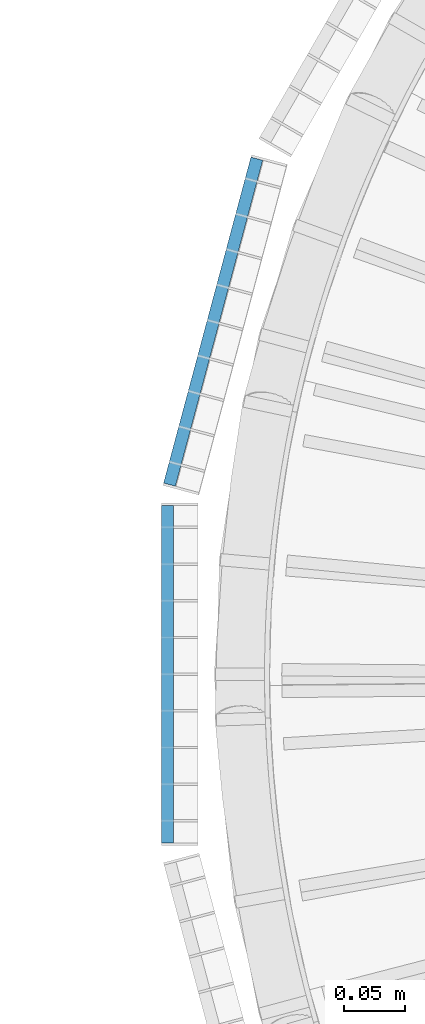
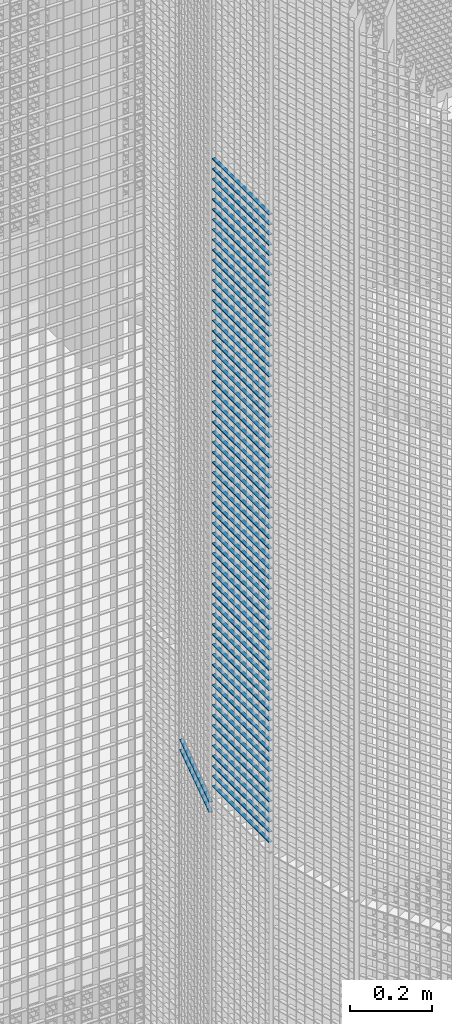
# One storey, part 200 of 1183: 65 beams, 2 elements without a shape of their own.
"""IFC2X3 building model written with IfcOpenShell, lengths in millimetres."""

from ifc_helpers import new_model, si_unit, frame, origin_with_axes, origin_2d_with_axis, place, context, subcontext, project, spatial, rectangle, extrude, material, type_object, element, aggregate, save


model = new_model("IFC2X3")

# Units and contexts
model_context = context("Model", 3, precision=1e-05, world=origin_with_axes())
body_context = subcontext(model_context, "Body", "Model", "MODEL_VIEW")
ifc_project = project(units=[si_unit("LENGTHUNIT", "METRE", prefix="MILLI"), si_unit("AREAUNIT", "SQUARE_METRE"), si_unit("VOLUMEUNIT", "CUBIC_METRE"), si_unit("MASSUNIT", "GRAM", prefix="KILO"), si_unit("TIMEUNIT", "SECOND"), si_unit("PLANEANGLEUNIT", "RADIAN"), si_unit("SOLIDANGLEUNIT", "STERADIAN"), si_unit("THERMODYNAMICTEMPERATUREUNIT", "DEGREE_CELSIUS"), si_unit("LUMINOUSINTENSITYUNIT", "LUMEN")], contexts=[model_context])

# Site, building, storey
site_placement = place(None, origin_with_axes())
site = spatial("IfcSite", under=ifc_project, at=site_placement, Name="Undefined", CompositionType="ELEMENT")
building_placement = place(site_placement, origin_with_axes())
building = spatial("IfcBuilding", under=site, at=building_placement, Name="Undefined", CompositionType="ELEMENT")
storey_placement = place(building_placement, origin_with_axes())
storey = spatial("IfcBuildingStorey", under=building, at=storey_placement, Name="Undefined", CompositionType="ELEMENT", Elevation=0.0)

# Assembly, beams
assembly_1_placement = place(storey_placement, origin_with_axes())
assembly_1 = element("IfcElementAssembly", 1, at=assembly_1_placement, inside=storey, Name="BORDURE", AssemblyPlace="NOTDEFINED", PredefinedType="NOTDEFINED")
ifc_material = material(Name="STEEL/S235JR")
beam_type = type_object("IfcBeamType", Name="PL2*10", PredefinedType="NOTDEFINED")
beam_1_placement = place(assembly_1_placement, frame((-1113.47999999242, 137.996003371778, 10890.0), z_axis=(-1.0, 0.0, 0.0), x_axis=(0.0, -1.0, 0.0)))
beam_1 = element("IfcBeam", 2, at=beam_1_placement, type_object=beam_type, material=ifc_material, Name="ENTRETOISE", context=body_context, shape_type="SweptSolid", body=[
    extrude(rectangle(XDim=2.0, YDim=10.0, at=origin_2d_with_axis()), frame((275.999999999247, 9.09494701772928e-13, 1.53210777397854e-14), z_axis=(-1.0, 0.0, 0.0), x_axis=(0.0, -1.0, 0.0)), (0.0, 0.0, 1.0), 276.0),
])
beam_2_placement = place(assembly_1_placement, frame((-1113.47999999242, 137.996003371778, 10860.0), z_axis=(-1.0, 0.0, 0.0), x_axis=(0.0, -1.0, 0.0)))
beam_2 = element("IfcBeam", 3, at=beam_2_placement, type_object=beam_type, material=ifc_material, Name="ENTRETOISE", context=body_context, shape_type="SweptSolid", body=[
    extrude(rectangle(XDim=2.0, YDim=10.0, at=origin_2d_with_axis()), frame((275.999999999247, 9.09494701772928e-13, 1.53210777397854e-14), z_axis=(-1.0, 0.0, 0.0), x_axis=(0.0, -1.0, 0.0)), (0.0, 0.0, 1.0), 276.0),
])
beam_3_placement = place(assembly_1_placement, frame((-1113.47999999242, 137.996003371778, 10830.0), z_axis=(-1.0, 0.0, 0.0), x_axis=(0.0, -1.0, 0.0)))
beam_3 = element("IfcBeam", 4, at=beam_3_placement, type_object=beam_type, material=ifc_material, Name="ENTRETOISE", context=body_context, shape_type="SweptSolid", body=[
    extrude(rectangle(XDim=2.0, YDim=10.0, at=origin_2d_with_axis()), frame((275.999999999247, 9.09494701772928e-13, 1.53210777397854e-14), z_axis=(-1.0, 0.0, 0.0), x_axis=(0.0, -1.0, 0.0)), (0.0, 0.0, 1.0), 276.0),
])
beam_4_placement = place(assembly_1_placement, frame((-1113.47999999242, 137.996003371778, 10800.0), z_axis=(-1.0, 0.0, 0.0), x_axis=(0.0, -1.0, 0.0)))
beam_4 = element("IfcBeam", 5, at=beam_4_placement, type_object=beam_type, material=ifc_material, Name="ENTRETOISE", context=body_context, shape_type="SweptSolid", body=[
    extrude(rectangle(XDim=2.0, YDim=10.0, at=origin_2d_with_axis()), frame((275.999999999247, 9.09494701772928e-13, 1.53210777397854e-14), z_axis=(-1.0, 0.0, 0.0), x_axis=(0.0, -1.0, 0.0)), (0.0, 0.0, 1.0), 276.0),
])
beam_5_placement = place(assembly_1_placement, frame((-1113.47999999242, 137.996003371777, 10770.0), z_axis=(-1.0, 0.0, 0.0), x_axis=(0.0, -1.0, 0.0)))
beam_5 = element("IfcBeam", 6, at=beam_5_placement, type_object=beam_type, material=ifc_material, Name="ENTRETOISE", context=body_context, shape_type="SweptSolid", body=[
    extrude(rectangle(XDim=2.0, YDim=10.0, at=origin_2d_with_axis()), frame((275.999999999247, 9.09494701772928e-13, 1.53210777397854e-14), z_axis=(-1.0, 0.0, 0.0), x_axis=(0.0, -1.0, 0.0)), (0.0, 0.0, 1.0), 276.0),
])
beam_6_placement = place(assembly_1_placement, frame((-1113.47999999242, 137.996003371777, 10740.0), z_axis=(-1.0, 0.0, 0.0), x_axis=(0.0, -1.0, 0.0)))
beam_6 = element("IfcBeam", 7, at=beam_6_placement, type_object=beam_type, material=ifc_material, Name="ENTRETOISE", context=body_context, shape_type="SweptSolid", body=[
    extrude(rectangle(XDim=2.0, YDim=10.0, at=origin_2d_with_axis()), frame((275.999999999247, 9.09494701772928e-13, 1.53210777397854e-14), z_axis=(-1.0, 0.0, 0.0), x_axis=(0.0, -1.0, 0.0)), (0.0, 0.0, 1.0), 276.0),
])
beam_7_placement = place(assembly_1_placement, frame((-1113.47999999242, 137.996003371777, 10710.0), z_axis=(-1.0, 0.0, 0.0), x_axis=(0.0, -1.0, 0.0)))
beam_7 = element("IfcBeam", 8, at=beam_7_placement, type_object=beam_type, material=ifc_material, Name="ENTRETOISE", context=body_context, shape_type="SweptSolid", body=[
    extrude(rectangle(XDim=2.0, YDim=10.0, at=origin_2d_with_axis()), frame((275.999999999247, 9.09494701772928e-13, 1.53210777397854e-14), z_axis=(-1.0, 0.0, 0.0), x_axis=(0.0, -1.0, 0.0)), (0.0, 0.0, 1.0), 276.0),
])
beam_8_placement = place(assembly_1_placement, frame((-1113.47999999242, 137.996003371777, 10680.0), z_axis=(-1.0, 0.0, 0.0), x_axis=(0.0, -1.0, 0.0)))
beam_8 = element("IfcBeam", 9, at=beam_8_placement, type_object=beam_type, material=ifc_material, Name="ENTRETOISE", context=body_context, shape_type="SweptSolid", body=[
    extrude(rectangle(XDim=2.0, YDim=10.0, at=origin_2d_with_axis()), frame((275.999999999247, 9.09494701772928e-13, 1.53210777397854e-14), z_axis=(-1.0, 0.0, 0.0), x_axis=(0.0, -1.0, 0.0)), (0.0, 0.0, 1.0), 276.0),
])
beam_9_placement = place(assembly_1_placement, frame((-1113.47999999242, 137.996003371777, 10650.0), z_axis=(-1.0, 0.0, 0.0), x_axis=(0.0, -1.0, 0.0)))
beam_9 = element("IfcBeam", 10, at=beam_9_placement, type_object=beam_type, material=ifc_material, Name="ENTRETOISE", context=body_context, shape_type="SweptSolid", body=[
    extrude(rectangle(XDim=2.0, YDim=10.0, at=origin_2d_with_axis()), frame((275.999999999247, 9.09494701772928e-13, 1.53210777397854e-14), z_axis=(-1.0, 0.0, 0.0), x_axis=(0.0, -1.0, 0.0)), (0.0, 0.0, 1.0), 276.0),
])
beam_10_placement = place(assembly_1_placement, frame((-1113.47999999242, 137.996003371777, 10620.0), z_axis=(-1.0, 0.0, 0.0), x_axis=(0.0, -1.0, 0.0)))
beam_10 = element("IfcBeam", 11, at=beam_10_placement, type_object=beam_type, material=ifc_material, Name="ENTRETOISE", context=body_context, shape_type="SweptSolid", body=[
    extrude(rectangle(XDim=2.0, YDim=10.0, at=origin_2d_with_axis()), frame((275.999999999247, 9.09494701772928e-13, 1.53210777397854e-14), z_axis=(-1.0, 0.0, 0.0), x_axis=(0.0, -1.0, 0.0)), (0.0, 0.0, 1.0), 276.0),
])
beam_11_placement = place(assembly_1_placement, frame((-1113.47999999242, 137.996003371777, 10590.0), z_axis=(-1.0, 0.0, 0.0), x_axis=(0.0, -1.0, 0.0)))
beam_11 = element("IfcBeam", 12, at=beam_11_placement, type_object=beam_type, material=ifc_material, Name="ENTRETOISE", context=body_context, shape_type="SweptSolid", body=[
    extrude(rectangle(XDim=2.0, YDim=10.0, at=origin_2d_with_axis()), frame((275.999999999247, 9.09494701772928e-13, 1.53210777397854e-14), z_axis=(-1.0, 0.0, 0.0), x_axis=(0.0, -1.0, 0.0)), (0.0, 0.0, 1.0), 276.0),
])
beam_12_placement = place(assembly_1_placement, frame((-1113.47999999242, 137.996003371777, 10560.0), z_axis=(-1.0, 0.0, 0.0), x_axis=(0.0, -1.0, 0.0)))
beam_12 = element("IfcBeam", 13, at=beam_12_placement, type_object=beam_type, material=ifc_material, Name="ENTRETOISE", context=body_context, shape_type="SweptSolid", body=[
    extrude(rectangle(XDim=2.0, YDim=10.0, at=origin_2d_with_axis()), frame((275.999999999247, 9.09494701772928e-13, 1.53210777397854e-14), z_axis=(-1.0, 0.0, 0.0), x_axis=(0.0, -1.0, 0.0)), (0.0, 0.0, 1.0), 276.0),
])
beam_13_placement = place(assembly_1_placement, frame((-1113.47999999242, 137.996003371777, 10530.0), z_axis=(-1.0, 0.0, 0.0), x_axis=(0.0, -1.0, 0.0)))
beam_13 = element("IfcBeam", 14, at=beam_13_placement, type_object=beam_type, material=ifc_material, Name="ENTRETOISE", context=body_context, shape_type="SweptSolid", body=[
    extrude(rectangle(XDim=2.0, YDim=10.0, at=origin_2d_with_axis()), frame((275.999999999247, 9.09494701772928e-13, 1.53210777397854e-14), z_axis=(-1.0, 0.0, 0.0), x_axis=(0.0, -1.0, 0.0)), (0.0, 0.0, 1.0), 276.0),
])
beam_14_placement = place(assembly_1_placement, frame((-1113.47999999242, 137.996003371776, 10500.0), z_axis=(-1.0, 0.0, 0.0), x_axis=(0.0, -1.0, 0.0)))
beam_14 = element("IfcBeam", 15, at=beam_14_placement, type_object=beam_type, material=ifc_material, Name="ENTRETOISE", context=body_context, shape_type="SweptSolid", body=[
    extrude(rectangle(XDim=2.0, YDim=10.0, at=origin_2d_with_axis()), frame((275.999999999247, 9.09494701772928e-13, 1.53210777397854e-14), z_axis=(-1.0, 0.0, 0.0), x_axis=(0.0, -1.0, 0.0)), (0.0, 0.0, 1.0), 276.0),
])
beam_15_placement = place(assembly_1_placement, frame((-1113.47999999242, 137.996003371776, 10470.0), z_axis=(-1.0, 0.0, 0.0), x_axis=(0.0, -1.0, 0.0)))
beam_15 = element("IfcBeam", 16, at=beam_15_placement, type_object=beam_type, material=ifc_material, Name="ENTRETOISE", context=body_context, shape_type="SweptSolid", body=[
    extrude(rectangle(XDim=2.0, YDim=10.0, at=origin_2d_with_axis()), frame((275.999999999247, 9.09494701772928e-13, 1.53210777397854e-14), z_axis=(-1.0, 0.0, 0.0), x_axis=(0.0, -1.0, 0.0)), (0.0, 0.0, 1.0), 276.0),
])
beam_16_placement = place(assembly_1_placement, frame((-1113.47999999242, 137.996003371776, 10440.0), z_axis=(-1.0, 0.0, 0.0), x_axis=(0.0, -1.0, 0.0)))
beam_16 = element("IfcBeam", 17, at=beam_16_placement, type_object=beam_type, material=ifc_material, Name="ENTRETOISE", context=body_context, shape_type="SweptSolid", body=[
    extrude(rectangle(XDim=2.0, YDim=10.0, at=origin_2d_with_axis()), frame((275.999999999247, 9.09494701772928e-13, 1.53210777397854e-14), z_axis=(-1.0, 0.0, 0.0), x_axis=(0.0, -1.0, 0.0)), (0.0, 0.0, 1.0), 276.0),
])
beam_17_placement = place(assembly_1_placement, frame((-1113.47999999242, 137.996003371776, 10410.0), z_axis=(-1.0, 0.0, 0.0), x_axis=(0.0, -1.0, 0.0)))
beam_17 = element("IfcBeam", 18, at=beam_17_placement, type_object=beam_type, material=ifc_material, Name="ENTRETOISE", context=body_context, shape_type="SweptSolid", body=[
    extrude(rectangle(XDim=2.0, YDim=10.0, at=origin_2d_with_axis()), frame((275.999999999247, 9.09494701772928e-13, 1.53210777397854e-14), z_axis=(-1.0, 0.0, 0.0), x_axis=(0.0, -1.0, 0.0)), (0.0, 0.0, 1.0), 276.0),
])
beam_18_placement = place(assembly_1_placement, frame((-1113.47999999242, 137.996003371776, 10380.0), z_axis=(-1.0, 0.0, 0.0), x_axis=(0.0, -1.0, 0.0)))
beam_18 = element("IfcBeam", 19, at=beam_18_placement, type_object=beam_type, material=ifc_material, Name="ENTRETOISE", context=body_context, shape_type="SweptSolid", body=[
    extrude(rectangle(XDim=2.0, YDim=10.0, at=origin_2d_with_axis()), frame((275.999999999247, 9.09494701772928e-13, 1.53210777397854e-14), z_axis=(-1.0, 0.0, 0.0), x_axis=(0.0, -1.0, 0.0)), (0.0, 0.0, 1.0), 276.0),
])
beam_19_placement = place(assembly_1_placement, frame((-1113.47999999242, 137.996003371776, 10350.0), z_axis=(-1.0, 0.0, 0.0), x_axis=(0.0, -1.0, 0.0)))
beam_19 = element("IfcBeam", 20, at=beam_19_placement, type_object=beam_type, material=ifc_material, Name="ENTRETOISE", context=body_context, shape_type="SweptSolid", body=[
    extrude(rectangle(XDim=2.0, YDim=10.0, at=origin_2d_with_axis()), frame((275.999999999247, 9.09494701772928e-13, 1.53210777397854e-14), z_axis=(-1.0, 0.0, 0.0), x_axis=(0.0, -1.0, 0.0)), (0.0, 0.0, 1.0), 276.0),
])
beam_20_placement = place(assembly_1_placement, frame((-1113.47999999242, 137.996003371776, 10320.0), z_axis=(-1.0, 0.0, 0.0), x_axis=(0.0, -1.0, 0.0)))
beam_20 = element("IfcBeam", 21, at=beam_20_placement, type_object=beam_type, material=ifc_material, Name="ENTRETOISE", context=body_context, shape_type="SweptSolid", body=[
    extrude(rectangle(XDim=2.0, YDim=10.0, at=origin_2d_with_axis()), frame((275.999999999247, 9.09494701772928e-13, 1.53210777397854e-14), z_axis=(-1.0, 0.0, 0.0), x_axis=(0.0, -1.0, 0.0)), (0.0, 0.0, 1.0), 276.0),
])
beam_21_placement = place(assembly_1_placement, frame((-1113.47999999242, 137.996003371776, 10290.0), z_axis=(-1.0, 0.0, 0.0), x_axis=(0.0, -1.0, 0.0)))
beam_21 = element("IfcBeam", 22, at=beam_21_placement, type_object=beam_type, material=ifc_material, Name="ENTRETOISE", context=body_context, shape_type="SweptSolid", body=[
    extrude(rectangle(XDim=2.0, YDim=10.0, at=origin_2d_with_axis()), frame((275.999999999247, 9.09494701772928e-13, 1.53210777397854e-14), z_axis=(-1.0, 0.0, 0.0), x_axis=(0.0, -1.0, 0.0)), (0.0, 0.0, 1.0), 276.0),
])
beam_22_placement = place(assembly_1_placement, frame((-1113.47999999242, 137.996003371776, 10260.0), z_axis=(-1.0, 0.0, 0.0), x_axis=(0.0, -1.0, 0.0)))
beam_22 = element("IfcBeam", 23, at=beam_22_placement, type_object=beam_type, material=ifc_material, Name="ENTRETOISE", context=body_context, shape_type="SweptSolid", body=[
    extrude(rectangle(XDim=2.0, YDim=10.0, at=origin_2d_with_axis()), frame((275.999999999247, 9.09494701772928e-13, 1.53210777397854e-14), z_axis=(-1.0, 0.0, 0.0), x_axis=(0.0, -1.0, 0.0)), (0.0, 0.0, 1.0), 276.0),
])
beam_23_placement = place(assembly_1_placement, frame((-1113.47999999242, 137.996003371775, 10230.0), z_axis=(-1.0, 0.0, 0.0), x_axis=(0.0, -1.0, 0.0)))
beam_23 = element("IfcBeam", 24, at=beam_23_placement, type_object=beam_type, material=ifc_material, Name="ENTRETOISE", context=body_context, shape_type="SweptSolid", body=[
    extrude(rectangle(XDim=2.0, YDim=10.0, at=origin_2d_with_axis()), frame((275.999999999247, 9.09494701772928e-13, 1.53210777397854e-14), z_axis=(-1.0, 0.0, 0.0), x_axis=(0.0, -1.0, 0.0)), (0.0, 0.0, 1.0), 276.0),
])
beam_24_placement = place(assembly_1_placement, frame((-1113.47999999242, 137.996003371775, 10200.0), z_axis=(-1.0, 0.0, 0.0), x_axis=(0.0, -1.0, 0.0)))
beam_24 = element("IfcBeam", 25, at=beam_24_placement, type_object=beam_type, material=ifc_material, Name="ENTRETOISE", context=body_context, shape_type="SweptSolid", body=[
    extrude(rectangle(XDim=2.0, YDim=10.0, at=origin_2d_with_axis()), frame((275.999999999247, 9.09494701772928e-13, 1.53210777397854e-14), z_axis=(-1.0, 0.0, 0.0), x_axis=(0.0, -1.0, 0.0)), (0.0, 0.0, 1.0), 276.0),
])
beam_25_placement = place(assembly_1_placement, frame((-1113.47999999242, 137.996003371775, 10170.0), z_axis=(-1.0, 0.0, 0.0), x_axis=(0.0, -1.0, 0.0)))
beam_25 = element("IfcBeam", 26, at=beam_25_placement, type_object=beam_type, material=ifc_material, Name="ENTRETOISE", context=body_context, shape_type="SweptSolid", body=[
    extrude(rectangle(XDim=2.0, YDim=10.0, at=origin_2d_with_axis()), frame((275.999999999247, 9.09494701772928e-13, 1.53210777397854e-14), z_axis=(-1.0, 0.0, 0.0), x_axis=(0.0, -1.0, 0.0)), (0.0, 0.0, 1.0), 276.0),
])
beam_26_placement = place(assembly_1_placement, frame((-1113.47999999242, 137.996003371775, 10140.0), z_axis=(-1.0, 0.0, 0.0), x_axis=(0.0, -1.0, 0.0)))
beam_26 = element("IfcBeam", 27, at=beam_26_placement, type_object=beam_type, material=ifc_material, Name="ENTRETOISE", context=body_context, shape_type="SweptSolid", body=[
    extrude(rectangle(XDim=2.0, YDim=10.0, at=origin_2d_with_axis()), frame((275.999999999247, 9.09494701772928e-13, 1.53210777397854e-14), z_axis=(-1.0, 0.0, 0.0), x_axis=(0.0, -1.0, 0.0)), (0.0, 0.0, 1.0), 276.0),
])
beam_27_placement = place(assembly_1_placement, frame((-1113.47999999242, 137.996003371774, 9720.0), z_axis=(-1.0, 0.0, 0.0), x_axis=(0.0, -1.0, 0.0)))
beam_27 = element("IfcBeam", 28, at=beam_27_placement, type_object=beam_type, material=ifc_material, Name="ENTRETOISE", context=body_context, shape_type="SweptSolid", body=[
    extrude(rectangle(XDim=2.0, YDim=10.0, at=origin_2d_with_axis()), frame((275.999999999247, 9.09494701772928e-13, 1.53210777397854e-14), z_axis=(-1.0, 0.0, 0.0), x_axis=(0.0, -1.0, 0.0)), (0.0, 0.0, 1.0), 276.0),
])
beam_28_placement = place(assembly_1_placement, frame((-1113.47999999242, 137.996003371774, 9690.0), z_axis=(-1.0, 0.0, 0.0), x_axis=(0.0, -1.0, 0.0)))
beam_28 = element("IfcBeam", 29, at=beam_28_placement, type_object=beam_type, material=ifc_material, Name="ENTRETOISE", context=body_context, shape_type="SweptSolid", body=[
    extrude(rectangle(XDim=2.0, YDim=10.0, at=origin_2d_with_axis()), frame((275.999999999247, 9.09494701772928e-13, 1.53210777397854e-14), z_axis=(-1.0, 0.0, 0.0), x_axis=(0.0, -1.0, 0.0)), (0.0, 0.0, 1.0), 276.0),
])
beam_29_placement = place(assembly_1_placement, frame((-1113.47999999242, 137.996003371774, 9750.0), z_axis=(-1.0, 0.0, 0.0), x_axis=(0.0, -1.0, 0.0)))
beam_29 = element("IfcBeam", 30, at=beam_29_placement, type_object=beam_type, material=ifc_material, Name="ENTRETOISE", context=body_context, shape_type="SweptSolid", body=[
    extrude(rectangle(XDim=2.0, YDim=10.0, at=origin_2d_with_axis()), frame((275.999999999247, 9.09494701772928e-13, 1.53210777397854e-14), z_axis=(-1.0, 0.0, 0.0), x_axis=(0.0, -1.0, 0.0)), (0.0, 0.0, 1.0), 276.0),
])
beam_30_placement = place(assembly_1_placement, frame((-1113.47999999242, 137.996003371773, 9660.0), z_axis=(-1.0, 0.0, 0.0), x_axis=(0.0, -1.0, 0.0)))
beam_30 = element("IfcBeam", 31, at=beam_30_placement, type_object=beam_type, material=ifc_material, Name="ENTRETOISE", context=body_context, shape_type="SweptSolid", body=[
    extrude(rectangle(XDim=2.0, YDim=10.0, at=origin_2d_with_axis()), frame((275.999999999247, 9.09494701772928e-13, 1.53210777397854e-14), z_axis=(-1.0, 0.0, 0.0), x_axis=(0.0, -1.0, 0.0)), (0.0, 0.0, 1.0), 276.0),
])
beam_31_placement = place(assembly_1_placement, frame((-1113.47999999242, 137.996003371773, 9630.0), z_axis=(-1.0, 0.0, 0.0), x_axis=(0.0, -1.0, 0.0)))
beam_31 = element("IfcBeam", 32, at=beam_31_placement, type_object=beam_type, material=ifc_material, Name="ENTRETOISE", context=body_context, shape_type="SweptSolid", body=[
    extrude(rectangle(XDim=2.0, YDim=10.0, at=origin_2d_with_axis()), frame((275.999999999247, 9.09494701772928e-13, 1.53210777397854e-14), z_axis=(-1.0, 0.0, 0.0), x_axis=(0.0, -1.0, 0.0)), (0.0, 0.0, 1.0), 276.0),
])
beam_32_placement = place(assembly_1_placement, frame((-1113.47999999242, 137.996003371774, 9780.0), z_axis=(-1.0, 0.0, 0.0), x_axis=(0.0, -1.0, 0.0)))
beam_32 = element("IfcBeam", 33, at=beam_32_placement, type_object=beam_type, material=ifc_material, Name="ENTRETOISE", context=body_context, shape_type="SweptSolid", body=[
    extrude(rectangle(XDim=2.0, YDim=10.0, at=origin_2d_with_axis()), frame((275.999999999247, 9.09494701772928e-13, 1.53210777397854e-14), z_axis=(-1.0, 0.0, 0.0), x_axis=(0.0, -1.0, 0.0)), (0.0, 0.0, 1.0), 276.0),
])
beam_33_placement = place(assembly_1_placement, frame((-1113.47999999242, 137.996003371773, 9600.0), z_axis=(-1.0, 0.0, 0.0), x_axis=(0.0, -1.0, 0.0)))
beam_33 = element("IfcBeam", 34, at=beam_33_placement, type_object=beam_type, material=ifc_material, Name="ENTRETOISE", context=body_context, shape_type="SweptSolid", body=[
    extrude(rectangle(XDim=2.0, YDim=10.0, at=origin_2d_with_axis()), frame((275.999999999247, 9.09494701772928e-13, 1.53210777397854e-14), z_axis=(-1.0, 0.0, 0.0), x_axis=(0.0, -1.0, 0.0)), (0.0, 0.0, 1.0), 276.0),
])
beam_34_placement = place(assembly_1_placement, frame((-1113.47999999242, 137.996003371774, 9810.0), z_axis=(-1.0, 0.0, 0.0), x_axis=(0.0, -1.0, 0.0)))
beam_34 = element("IfcBeam", 35, at=beam_34_placement, type_object=beam_type, material=ifc_material, Name="ENTRETOISE", context=body_context, shape_type="SweptSolid", body=[
    extrude(rectangle(XDim=2.0, YDim=10.0, at=origin_2d_with_axis()), frame((275.999999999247, 9.09494701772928e-13, 1.53210777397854e-14), z_axis=(-1.0, 0.0, 0.0), x_axis=(0.0, -1.0, 0.0)), (0.0, 0.0, 1.0), 276.0),
])
beam_35_placement = place(assembly_1_placement, frame((-1113.47999999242, 137.996003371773, 9570.0), z_axis=(-1.0, 0.0, 0.0), x_axis=(0.0, -1.0, 0.0)))
beam_35 = element("IfcBeam", 36, at=beam_35_placement, type_object=beam_type, material=ifc_material, Name="ENTRETOISE", context=body_context, shape_type="SweptSolid", body=[
    extrude(rectangle(XDim=2.0, YDim=10.0, at=origin_2d_with_axis()), frame((275.999999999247, 9.09494701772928e-13, 1.53210777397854e-14), z_axis=(-1.0, 0.0, 0.0), x_axis=(0.0, -1.0, 0.0)), (0.0, 0.0, 1.0), 276.0),
])
beam_36_placement = place(assembly_1_placement, frame((-1113.47999999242, 137.996003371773, 9540.0), z_axis=(-1.0, 0.0, 0.0), x_axis=(0.0, -1.0, 0.0)))
beam_36 = element("IfcBeam", 37, at=beam_36_placement, type_object=beam_type, material=ifc_material, Name="ENTRETOISE", context=body_context, shape_type="SweptSolid", body=[
    extrude(rectangle(XDim=2.0, YDim=10.0, at=origin_2d_with_axis()), frame((275.999999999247, 9.09494701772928e-13, 1.53210777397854e-14), z_axis=(-1.0, 0.0, 0.0), x_axis=(0.0, -1.0, 0.0)), (0.0, 0.0, 1.0), 276.0),
])
beam_37_placement = place(assembly_1_placement, frame((-1113.47999999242, 137.996003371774, 9840.0), z_axis=(-1.0, 0.0, 0.0), x_axis=(0.0, -1.0, 0.0)))
beam_37 = element("IfcBeam", 38, at=beam_37_placement, type_object=beam_type, material=ifc_material, Name="ENTRETOISE", context=body_context, shape_type="SweptSolid", body=[
    extrude(rectangle(XDim=2.0, YDim=10.0, at=origin_2d_with_axis()), frame((275.999999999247, 9.09494701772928e-13, 1.53210777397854e-14), z_axis=(-1.0, 0.0, 0.0), x_axis=(0.0, -1.0, 0.0)), (0.0, 0.0, 1.0), 276.0),
])
beam_38_placement = place(assembly_1_placement, frame((-1113.47999999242, 137.996003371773, 9510.0), z_axis=(-1.0, 0.0, 0.0), x_axis=(0.0, -1.0, 0.0)))
beam_38 = element("IfcBeam", 39, at=beam_38_placement, type_object=beam_type, material=ifc_material, Name="ENTRETOISE", context=body_context, shape_type="SweptSolid", body=[
    extrude(rectangle(XDim=2.0, YDim=10.0, at=origin_2d_with_axis()), frame((275.999999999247, 9.09494701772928e-13, 1.53210777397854e-14), z_axis=(-1.0, 0.0, 0.0), x_axis=(0.0, -1.0, 0.0)), (0.0, 0.0, 1.0), 276.0),
])
beam_39_placement = place(assembly_1_placement, frame((-1113.47999999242, 137.996003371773, 9480.0), z_axis=(-1.0, 0.0, 0.0), x_axis=(0.0, -1.0, 0.0)))
beam_39 = element("IfcBeam", 40, at=beam_39_placement, type_object=beam_type, material=ifc_material, Name="ENTRETOISE", context=body_context, shape_type="SweptSolid", body=[
    extrude(rectangle(XDim=2.0, YDim=10.0, at=origin_2d_with_axis()), frame((275.999999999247, 9.09494701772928e-13, 1.53210777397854e-14), z_axis=(-1.0, 0.0, 0.0), x_axis=(0.0, -1.0, 0.0)), (0.0, 0.0, 1.0), 276.0),
])
beam_40_placement = place(assembly_1_placement, frame((-1113.47999999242, 137.996003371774, 9870.0), z_axis=(-1.0, 0.0, 0.0), x_axis=(0.0, -1.0, 0.0)))
beam_40 = element("IfcBeam", 41, at=beam_40_placement, type_object=beam_type, material=ifc_material, Name="ENTRETOISE", context=body_context, shape_type="SweptSolid", body=[
    extrude(rectangle(XDim=2.0, YDim=10.0, at=origin_2d_with_axis()), frame((275.999999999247, 9.09494701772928e-13, 1.53210777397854e-14), z_axis=(-1.0, 0.0, 0.0), x_axis=(0.0, -1.0, 0.0)), (0.0, 0.0, 1.0), 276.0),
])
beam_41_placement = place(assembly_1_placement, frame((-1113.47999999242, 137.996003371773, 9450.0), z_axis=(-1.0, 0.0, 0.0), x_axis=(0.0, -1.0, 0.0)))
beam_41 = element("IfcBeam", 42, at=beam_41_placement, type_object=beam_type, material=ifc_material, Name="ENTRETOISE", context=body_context, shape_type="SweptSolid", body=[
    extrude(rectangle(XDim=2.0, YDim=10.0, at=origin_2d_with_axis()), frame((275.999999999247, 9.09494701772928e-13, 1.53210777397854e-14), z_axis=(-1.0, 0.0, 0.0), x_axis=(0.0, -1.0, 0.0)), (0.0, 0.0, 1.0), 276.0),
])
beam_42_placement = place(assembly_1_placement, frame((-1113.47999999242, 137.996003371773, 9420.0), z_axis=(-1.0, 0.0, 0.0), x_axis=(0.0, -1.0, 0.0)))
beam_42 = element("IfcBeam", 43, at=beam_42_placement, type_object=beam_type, material=ifc_material, Name="ENTRETOISE", context=body_context, shape_type="SweptSolid", body=[
    extrude(rectangle(XDim=2.0, YDim=10.0, at=origin_2d_with_axis()), frame((275.999999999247, 9.09494701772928e-13, 1.53210777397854e-14), z_axis=(-1.0, 0.0, 0.0), x_axis=(0.0, -1.0, 0.0)), (0.0, 0.0, 1.0), 276.0),
])
beam_43_placement = place(assembly_1_placement, frame((-1113.47999999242, 137.996003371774, 9900.0), z_axis=(-1.0, 0.0, 0.0), x_axis=(0.0, -1.0, 0.0)))
beam_43 = element("IfcBeam", 44, at=beam_43_placement, type_object=beam_type, material=ifc_material, Name="ENTRETOISE", context=body_context, shape_type="SweptSolid", body=[
    extrude(rectangle(XDim=2.0, YDim=10.0, at=origin_2d_with_axis()), frame((275.999999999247, 9.09494701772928e-13, 1.53210777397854e-14), z_axis=(-1.0, 0.0, 0.0), x_axis=(0.0, -1.0, 0.0)), (0.0, 0.0, 1.0), 276.0),
])
beam_44_placement = place(assembly_1_placement, frame((-1113.47999999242, 137.996003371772, 9390.0), z_axis=(-1.0, 0.0, 0.0), x_axis=(0.0, -1.0, 0.0)))
beam_44 = element("IfcBeam", 45, at=beam_44_placement, type_object=beam_type, material=ifc_material, Name="ENTRETOISE", context=body_context, shape_type="SweptSolid", body=[
    extrude(rectangle(XDim=2.0, YDim=10.0, at=origin_2d_with_axis()), frame((275.999999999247, 9.09494701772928e-13, 1.53210777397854e-14), z_axis=(-1.0, 0.0, 0.0), x_axis=(0.0, -1.0, 0.0)), (0.0, 0.0, 1.0), 276.0),
])
beam_45_placement = place(assembly_1_placement, frame((-1113.47999999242, 137.996003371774, 9930.0), z_axis=(-1.0, 0.0, 0.0), x_axis=(0.0, -1.0, 0.0)))
beam_45 = element("IfcBeam", 46, at=beam_45_placement, type_object=beam_type, material=ifc_material, Name="ENTRETOISE", context=body_context, shape_type="SweptSolid", body=[
    extrude(rectangle(XDim=2.0, YDim=10.0, at=origin_2d_with_axis()), frame((275.999999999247, 9.09494701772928e-13, 1.53210777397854e-14), z_axis=(-1.0, 0.0, 0.0), x_axis=(0.0, -1.0, 0.0)), (0.0, 0.0, 1.0), 276.0),
])
beam_46_placement = place(assembly_1_placement, frame((-1113.47999999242, 137.996003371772, 9360.0), z_axis=(-1.0, 0.0, 0.0), x_axis=(0.0, -1.0, 0.0)))
beam_46 = element("IfcBeam", 47, at=beam_46_placement, type_object=beam_type, material=ifc_material, Name="ENTRETOISE", context=body_context, shape_type="SweptSolid", body=[
    extrude(rectangle(XDim=2.0, YDim=10.0, at=origin_2d_with_axis()), frame((275.999999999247, 9.09494701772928e-13, 1.53210777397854e-14), z_axis=(-1.0, 0.0, 0.0), x_axis=(0.0, -1.0, 0.0)), (0.0, 0.0, 1.0), 276.0),
])
beam_47_placement = place(assembly_1_placement, frame((-1113.47999999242, 137.996003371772, 9330.0), z_axis=(-1.0, 0.0, 0.0), x_axis=(0.0, -1.0, 0.0)))
beam_47 = element("IfcBeam", 48, at=beam_47_placement, type_object=beam_type, material=ifc_material, Name="ENTRETOISE", context=body_context, shape_type="SweptSolid", body=[
    extrude(rectangle(XDim=2.0, YDim=10.0, at=origin_2d_with_axis()), frame((275.999999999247, 9.09494701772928e-13, 1.53210777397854e-14), z_axis=(-1.0, 0.0, 0.0), x_axis=(0.0, -1.0, 0.0)), (0.0, 0.0, 1.0), 276.0),
])
beam_48_placement = place(assembly_1_placement, frame((-1113.47999999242, 137.996003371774, 9960.0), z_axis=(-1.0, 0.0, 0.0), x_axis=(0.0, -1.0, 0.0)))
beam_48 = element("IfcBeam", 49, at=beam_48_placement, type_object=beam_type, material=ifc_material, Name="ENTRETOISE", context=body_context, shape_type="SweptSolid", body=[
    extrude(rectangle(XDim=2.0, YDim=10.0, at=origin_2d_with_axis()), frame((275.999999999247, 9.09494701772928e-13, 1.53210777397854e-14), z_axis=(-1.0, 0.0, 0.0), x_axis=(0.0, -1.0, 0.0)), (0.0, 0.0, 1.0), 276.0),
])
beam_49_placement = place(assembly_1_placement, frame((-1113.47999999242, 137.996003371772, 9300.0), z_axis=(-1.0, 0.0, 0.0), x_axis=(0.0, -1.0, 0.0)))
beam_49 = element("IfcBeam", 50, at=beam_49_placement, type_object=beam_type, material=ifc_material, Name="ENTRETOISE", context=body_context, shape_type="SweptSolid", body=[
    extrude(rectangle(XDim=2.0, YDim=10.0, at=origin_2d_with_axis()), frame((275.999999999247, 9.09494701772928e-13, 1.53210777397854e-14), z_axis=(-1.0, 0.0, 0.0), x_axis=(0.0, -1.0, 0.0)), (0.0, 0.0, 1.0), 276.0),
])
beam_50_placement = place(assembly_1_placement, frame((-1113.47999999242, 137.996003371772, 9270.0), z_axis=(-1.0, 0.0, 0.0), x_axis=(0.0, -1.0, 0.0)))
beam_50 = element("IfcBeam", 51, at=beam_50_placement, type_object=beam_type, material=ifc_material, Name="ENTRETOISE", context=body_context, shape_type="SweptSolid", body=[
    extrude(rectangle(XDim=2.0, YDim=10.0, at=origin_2d_with_axis()), frame((275.999999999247, 9.09494701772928e-13, 1.53210777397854e-14), z_axis=(-1.0, 0.0, 0.0), x_axis=(0.0, -1.0, 0.0)), (0.0, 0.0, 1.0), 276.0),
])
beam_51_placement = place(assembly_1_placement, frame((-1113.47999999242, 137.996003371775, 9990.0), z_axis=(-1.0, 0.0, 0.0), x_axis=(0.0, -1.0, 0.0)))
beam_51 = element("IfcBeam", 52, at=beam_51_placement, type_object=beam_type, material=ifc_material, Name="ENTRETOISE", context=body_context, shape_type="SweptSolid", body=[
    extrude(rectangle(XDim=2.0, YDim=10.0, at=origin_2d_with_axis()), frame((275.999999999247, 9.09494701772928e-13, 1.53210777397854e-14), z_axis=(-1.0, 0.0, 0.0), x_axis=(0.0, -1.0, 0.0)), (0.0, 0.0, 1.0), 276.0),
])
beam_52_placement = place(assembly_1_placement, frame((-1113.47999999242, 137.996003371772, 9240.0), z_axis=(-1.0, 0.0, 0.0), x_axis=(0.0, -1.0, 0.0)))
beam_52 = element("IfcBeam", 53, at=beam_52_placement, type_object=beam_type, material=ifc_material, Name="ENTRETOISE", context=body_context, shape_type="SweptSolid", body=[
    extrude(rectangle(XDim=2.0, YDim=10.0, at=origin_2d_with_axis()), frame((275.999999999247, 9.09494701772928e-13, 1.53210777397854e-14), z_axis=(-1.0, 0.0, 0.0), x_axis=(0.0, -1.0, 0.0)), (0.0, 0.0, 1.0), 276.0),
])
beam_53_placement = place(assembly_1_placement, frame((-1113.47999999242, 137.996003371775, 10020.0), z_axis=(-1.0, 0.0, 0.0), x_axis=(0.0, -1.0, 0.0)))
beam_53 = element("IfcBeam", 54, at=beam_53_placement, type_object=beam_type, material=ifc_material, Name="ENTRETOISE", context=body_context, shape_type="SweptSolid", body=[
    extrude(rectangle(XDim=2.0, YDim=10.0, at=origin_2d_with_axis()), frame((275.999999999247, 9.09494701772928e-13, 1.53210777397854e-14), z_axis=(-1.0, 0.0, 0.0), x_axis=(0.0, -1.0, 0.0)), (0.0, 0.0, 1.0), 276.0),
])
beam_54_placement = place(assembly_1_placement, frame((-1113.47999999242, 137.996003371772, 9210.0), z_axis=(-1.0, 0.0, 0.0), x_axis=(0.0, -1.0, 0.0)))
beam_54 = element("IfcBeam", 55, at=beam_54_placement, type_object=beam_type, material=ifc_material, Name="ENTRETOISE", context=body_context, shape_type="SweptSolid", body=[
    extrude(rectangle(XDim=2.0, YDim=10.0, at=origin_2d_with_axis()), frame((275.999999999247, 9.09494701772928e-13, 1.53210777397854e-14), z_axis=(-1.0, 0.0, 0.0), x_axis=(0.0, -1.0, 0.0)), (0.0, 0.0, 1.0), 276.0),
])
beam_55_placement = place(assembly_1_placement, frame((-1113.47999999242, 137.996003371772, 9180.0), z_axis=(-1.0, 0.0, 0.0), x_axis=(0.0, -1.0, 0.0)))
beam_55 = element("IfcBeam", 56, at=beam_55_placement, type_object=beam_type, material=ifc_material, Name="ENTRETOISE", context=body_context, shape_type="SweptSolid", body=[
    extrude(rectangle(XDim=2.0, YDim=10.0, at=origin_2d_with_axis()), frame((275.999999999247, 9.09494701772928e-13, 1.53210777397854e-14), z_axis=(-1.0, 0.0, 0.0), x_axis=(0.0, -1.0, 0.0)), (0.0, 0.0, 1.0), 276.0),
])
beam_56_placement = place(assembly_1_placement, frame((-1113.47999999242, 137.996003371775, 10050.0), z_axis=(-1.0, 0.0, 0.0), x_axis=(0.0, -1.0, 0.0)))
beam_56 = element("IfcBeam", 57, at=beam_56_placement, type_object=beam_type, material=ifc_material, Name="ENTRETOISE", context=body_context, shape_type="SweptSolid", body=[
    extrude(rectangle(XDim=2.0, YDim=10.0, at=origin_2d_with_axis()), frame((275.999999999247, 9.09494701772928e-13, 1.53210777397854e-14), z_axis=(-1.0, 0.0, 0.0), x_axis=(0.0, -1.0, 0.0)), (0.0, 0.0, 1.0), 276.0),
])
beam_57_placement = place(assembly_1_placement, frame((-1113.47999999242, 137.996003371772, 9150.0), z_axis=(-1.0, 0.0, 0.0), x_axis=(0.0, -1.0, 0.0)))
beam_57 = element("IfcBeam", 58, at=beam_57_placement, type_object=beam_type, material=ifc_material, Name="ENTRETOISE", context=body_context, shape_type="SweptSolid", body=[
    extrude(rectangle(XDim=2.0, YDim=10.0, at=origin_2d_with_axis()), frame((275.999999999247, 9.09494701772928e-13, 1.53210777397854e-14), z_axis=(-1.0, 0.0, 0.0), x_axis=(0.0, -1.0, 0.0)), (0.0, 0.0, 1.0), 276.0),
])
beam_58_placement = place(assembly_1_placement, frame((-1113.47999999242, 137.996003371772, 9120.0), z_axis=(-1.0, 0.0, 0.0), x_axis=(0.0, -1.0, 0.0)))
beam_58 = element("IfcBeam", 59, at=beam_58_placement, type_object=beam_type, material=ifc_material, Name="ENTRETOISE", context=body_context, shape_type="SweptSolid", body=[
    extrude(rectangle(XDim=2.0, YDim=10.0, at=origin_2d_with_axis()), frame((275.999999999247, 9.09494701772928e-13, 1.53210777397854e-14), z_axis=(-1.0, 0.0, 0.0), x_axis=(0.0, -1.0, 0.0)), (0.0, 0.0, 1.0), 276.0),
])
beam_59_placement = place(assembly_1_placement, frame((-1113.47999999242, 137.996003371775, 10080.0), z_axis=(-1.0, 0.0, 0.0), x_axis=(0.0, -1.0, 0.0)))
beam_59 = element("IfcBeam", 60, at=beam_59_placement, type_object=beam_type, material=ifc_material, Name="ENTRETOISE", context=body_context, shape_type="SweptSolid", body=[
    extrude(rectangle(XDim=2.0, YDim=10.0, at=origin_2d_with_axis()), frame((275.999999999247, 9.09494701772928e-13, 1.53210777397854e-14), z_axis=(-1.0, 0.0, 0.0), x_axis=(0.0, -1.0, 0.0)), (0.0, 0.0, 1.0), 276.0),
])
beam_60_placement = place(assembly_1_placement, frame((-1113.47999999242, 137.996003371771, 9090.0), z_axis=(-1.0, 0.0, 0.0), x_axis=(0.0, -1.0, 0.0)))
beam_60 = element("IfcBeam", 61, at=beam_60_placement, type_object=beam_type, material=ifc_material, Name="ENTRETOISE", context=body_context, shape_type="SweptSolid", body=[
    extrude(rectangle(XDim=2.0, YDim=10.0, at=origin_2d_with_axis()), frame((275.999999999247, 9.09494701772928e-13, 1.53210777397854e-14), z_axis=(-1.0, 0.0, 0.0), x_axis=(0.0, -1.0, 0.0)), (0.0, 0.0, 1.0), 276.0),
])
beam_61_placement = place(assembly_1_placement, frame((-1113.47999999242, 137.996003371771, 9060.0), z_axis=(-1.0, 0.0, 0.0), x_axis=(0.0, -1.0, 0.0)))
beam_61 = element("IfcBeam", 62, at=beam_61_placement, type_object=beam_type, material=ifc_material, Name="ENTRETOISE", context=body_context, shape_type="SweptSolid", body=[
    extrude(rectangle(XDim=2.0, YDim=10.0, at=origin_2d_with_axis()), frame((275.999999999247, 9.09494701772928e-13, 1.53210777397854e-14), z_axis=(-1.0, 0.0, 0.0), x_axis=(0.0, -1.0, 0.0)), (0.0, 0.0, 1.0), 276.0),
])
beam_62_placement = place(assembly_1_placement, frame((-1113.47999999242, 137.996003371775, 10110.0), z_axis=(-1.0, 0.0, 0.0), x_axis=(0.0, -1.0, 0.0)))
beam_62 = element("IfcBeam", 63, at=beam_62_placement, type_object=beam_type, material=ifc_material, Name="ENTRETOISE", context=body_context, shape_type="SweptSolid", body=[
    extrude(rectangle(XDim=2.0, YDim=10.0, at=origin_2d_with_axis()), frame((275.999999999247, 9.09494701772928e-13, 1.53210777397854e-14), z_axis=(-1.0, 0.0, 0.0), x_axis=(0.0, -1.0, 0.0)), (0.0, 0.0, 1.0), 276.0),
])
beam_63_placement = place(assembly_1_placement, frame((-1113.47999999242, 137.99600337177, 9030.0), z_axis=(-1.0, 0.0, 0.0), x_axis=(0.0, -1.0, 0.0)))
beam_63 = element("IfcBeam", 64, at=beam_63_placement, type_object=beam_type, material=ifc_material, Name="ENTRETOISE", context=body_context, shape_type="SweptSolid", body=[
    extrude(rectangle(XDim=2.0, YDim=10.0, at=origin_2d_with_axis()), frame((275.999999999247, 9.09494701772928e-13, 1.53210777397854e-14), z_axis=(-1.0, 0.0, 0.0), x_axis=(0.0, -1.0, 0.0)), (0.0, 0.0, 1.0), 276.0),
])
aggregate(assembly_1, [beam_1, beam_2, beam_3, beam_4, beam_5, beam_6, beam_7, beam_8, beam_9, beam_10, beam_11, beam_12, beam_13, beam_14, beam_15, beam_16, beam_17, beam_18, beam_19, beam_20, beam_21, beam_22, beam_23, beam_24, beam_25, beam_26, beam_27, beam_28, beam_29, beam_30, beam_31, beam_32, beam_33, beam_34, beam_35, beam_36, beam_37, beam_38, beam_39, beam_40, beam_41, beam_42, beam_43, beam_44, beam_45, beam_46, beam_47, beam_48, beam_49, beam_50, beam_51, beam_52, beam_53, beam_54, beam_55, beam_56, beam_57, beam_58, beam_59, beam_60, beam_61, beam_62, beam_63])

assembly_2_placement = place(storey_placement, origin_with_axes())
assembly_2 = element("IfcElementAssembly", 65, at=assembly_2_placement, inside=storey, Name="BORDURE", AssemblyPlace="NOTDEFINED", PredefinedType="NOTDEFINED")
beam_64_placement = place(assembly_2_placement, frame((-1040.30888419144, 421.61803829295, 8970.0), z_axis=(-0.965925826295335, 0.258819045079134, 0.0), x_axis=(-0.258819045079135, -0.965925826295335, 0.0)))
beam_64 = element("IfcBeam", 66, at=beam_64_placement, type_object=beam_type, material=ifc_material, Name="ENTRETOISE", context=body_context, shape_type="SweptSolid", body=[
    extrude(rectangle(XDim=2.0, YDim=10.0, at=origin_2d_with_axis()), frame((275.999999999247, 9.09494701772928e-13, 1.53210777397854e-14), z_axis=(-1.0, 0.0, 0.0), x_axis=(0.0, -1.0, 0.0)), (0.0, 0.0, 1.0), 276.0),
])
beam_65_placement = place(assembly_2_placement, frame((-1040.30888419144, 421.61803829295, 8940.0), z_axis=(-0.965925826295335, 0.258819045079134, 0.0), x_axis=(-0.258819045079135, -0.965925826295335, 0.0)))
beam_65 = element("IfcBeam", 67, at=beam_65_placement, type_object=beam_type, material=ifc_material, Name="ENTRETOISE", context=body_context, shape_type="SweptSolid", body=[
    extrude(rectangle(XDim=2.0, YDim=10.0, at=origin_2d_with_axis()), frame((275.999999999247, 9.09494701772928e-13, 1.53210777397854e-14), z_axis=(-1.0, 0.0, 0.0), x_axis=(0.0, -1.0, 0.0)), (0.0, 0.0, 1.0), 276.0),
])
aggregate(assembly_2, [beam_64, beam_65])

save(model, "model.ifc")
